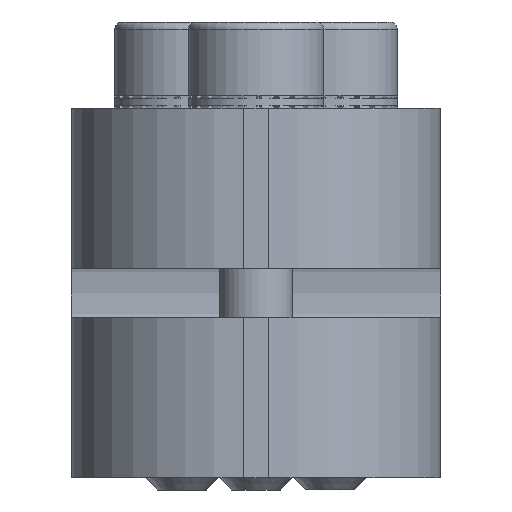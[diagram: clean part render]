
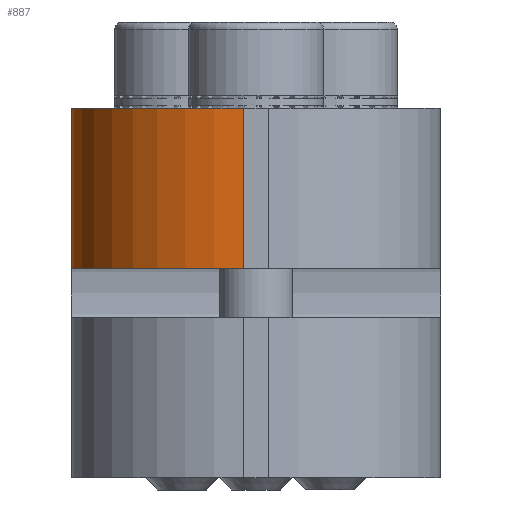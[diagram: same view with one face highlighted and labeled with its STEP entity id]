
A CAD part, front view. The second image highlights one B-rep face of the part: STEP entity #887.
In plain terms, the highlighted cylindrical face has radius 7 mm (diameter 14 mm), a partial arc.
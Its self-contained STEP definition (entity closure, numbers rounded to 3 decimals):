
#887=ADVANCED_FACE('',(#1859),#1860,.T.);
#1859=FACE_OUTER_BOUND('',#6593,.T.);
#1860=CYLINDRICAL_SURFACE('',#6594,7.0);
#6593=EDGE_LOOP('',(#8238,#8239,#8240,#8241));
#6594=AXIS2_PLACEMENT_3D('',#8242,#8243,#8244);
#8238=ORIENTED_EDGE('',*,*,#10823,.T.);
#8239=ORIENTED_EDGE('',*,*,#10824,.T.);
#8240=ORIENTED_EDGE('',*,*,#10825,.T.);
#8241=ORIENTED_EDGE('',*,*,#10826,.T.);
#8242=CARTESIAN_POINT('',(0.5,15.0,11.0));
#8243=DIRECTION('',(0.0,1.0,0.0));
#8244=DIRECTION('',(0.0,0.0,1.0));
#10823=EDGE_CURVE('',#12261,#12262,#12263,.T.);
#10824=EDGE_CURVE('',#12262,#12264,#12265,.T.);
#10825=EDGE_CURVE('',#12264,#12266,#12267,.F.);
#10826=EDGE_CURVE('',#12266,#12261,#12268,.F.);
#12261=VERTEX_POINT('',#15314);
#12262=VERTEX_POINT('',#15315);
#12263=CIRCLE('',#15316,7.0);
#12264=VERTEX_POINT('',#15317);
#12265=LINE('',#15318,#15319);
#12266=VERTEX_POINT('',#15320);
#12267=CIRCLE('',#15321,7.0);
#12268=LINE('',#15322,#15323);
#15314=CARTESIAN_POINT('',(0.5,0.0,18.0));
#15315=CARTESIAN_POINT('',(7.5,0.0,11.0));
#15316=AXIS2_PLACEMENT_3D('',#17518,#17519,#17520);
#15317=CARTESIAN_POINT('',(7.5,6.5,11.0));
#15318=CARTESIAN_POINT('',(7.5,15.0,11.0));
#15319=VECTOR('',#17521,1.0);
#15320=CARTESIAN_POINT('',(0.5,6.5,18.0));
#15321=AXIS2_PLACEMENT_3D('',#17522,#17523,#17524);
#15322=CARTESIAN_POINT('',(0.5,15.0,18.0));
#15323=VECTOR('',#17525,1.0);
#17518=CARTESIAN_POINT('',(0.5,0.0,11.0));
#17519=DIRECTION('',(0.0,1.0,0.0));
#17520=DIRECTION('',(0.0,0.0,1.0));
#17521=DIRECTION('',(0.0,1.0,0.0));
#17522=CARTESIAN_POINT('',(0.5,6.5,11.0));
#17523=DIRECTION('',(0.0,1.0,0.0));
#17524=DIRECTION('',(0.0,0.0,1.0));
#17525=DIRECTION('',(0.0,1.0,0.0));
